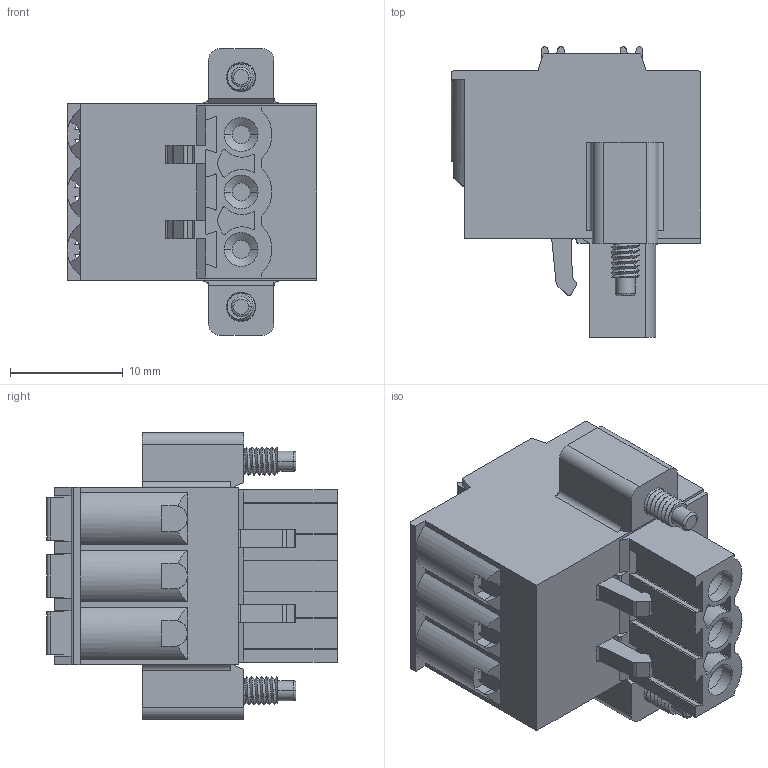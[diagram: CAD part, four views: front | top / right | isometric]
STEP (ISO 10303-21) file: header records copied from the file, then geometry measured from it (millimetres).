
FILE_DESCRIPTION((''),'2;1');
FILE_NAME('3PIN_SW0001','2019-05-15T',('zhenbing.lai'),(''),'CREO PARAMETRIC BY PTC INC, 2016260','CREO PARAMETRIC BY PTC INC, 2016260','');
FILE_SCHEMA(('CONFIG_CONTROL_DESIGN'));
Length unit declared in the file: millimetre
Products named in the file (1): 3PIN_SW0001
Bounding box: 22.1 x 25.7 x 25.36 mm (x, y, z)
Volume: 5927.6 mm3; surface area: 3589.8 mm2
Topology: 1 solids, 1 shells, 467 faces, 1363 edges, 914 vertices
Faces by surface type: plane 256, cylinder 143, bspline 30, torus 25, cone 13
Entity records: 23431 total; most frequent: CARTESIAN_POINT 11090, ORIENTED_EDGE 2718, DIRECTION 2424, EDGE_CURVE 1359, VERTEX_POINT 914, AXIS2_PLACEMENT_3D 820, VECTOR 784, LINE 784
